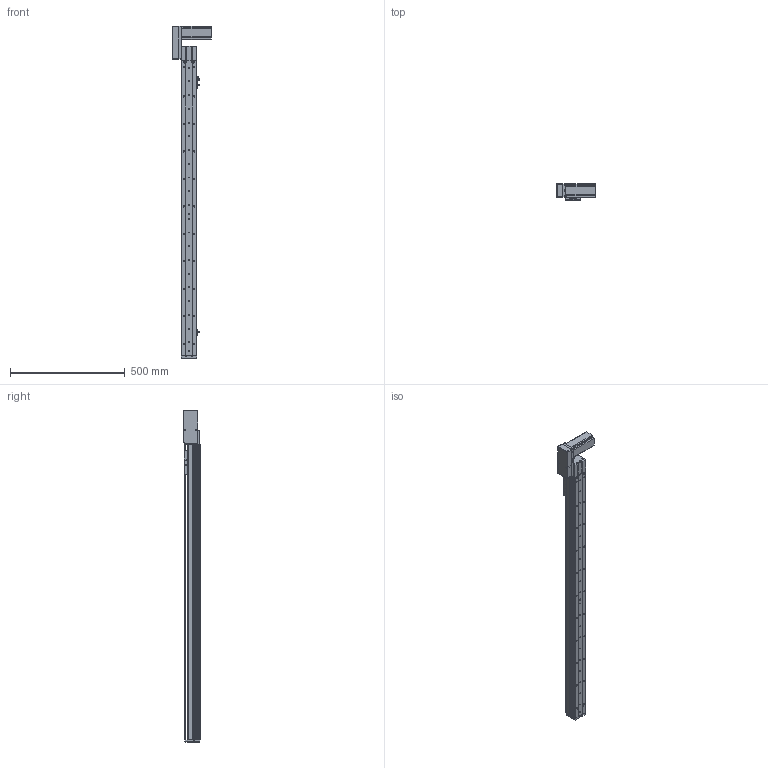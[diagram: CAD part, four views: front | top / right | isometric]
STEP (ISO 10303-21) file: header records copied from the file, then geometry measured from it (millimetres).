
FILE_DESCRIPTION (( 'STEP AP214' ), '1' );
FILE_NAME ('KSD68BS-S1100-MRB-CM.STEP', '2019-08-22T06:07:58', ( '微软用户' ), ( '微软中国' ), 'SwSTEP 2.0', 'SolidWorks 2014', '' );
FILE_SCHEMA (( 'AUTOMOTIVE_DESIGN' ));
Length unit declared in the file: millimetre
Products named in the file (11): U倰嫖萇EEㄜSX672; 台达ECMA－C20604AS伺服电机（400W); KSD68BS 1100俴最菁啣圉猾敕; KSD68BS-S1100-MRB-CM; 悵誘欶奻狟殏; 68宽马达安装板连板上折同步带; 68宽单导轨半封闭同步带主动轮座右; 68单导轨同步带半封闭端板; KSD68BS 1100俴最裔啣圉猾敕; 覜茼え68遵圉猾敕; KSD68BS半封闭同步带传动导轨座
Assembly tree (12 placements, depth 2):
  KSD68BS-S1100-MRB-CM
    KSD68BS 1100俴最菁啣圉猾敕
    台达ECMA－C20604AS伺服电机（400W)
    U倰嫖萇EEㄜSX672  x3
    KSD68BS半封闭同步带传动导轨座
    覜茼え68遵圉猾敕
    KSD68BS 1100俴最裔啣圉猾敕
    68单导轨同步带半封闭端板
    68宽单导轨半封闭同步带主动轮座右
    68宽马达安装板连板上折同步带
    悵誘欶奻狟殏
Bounding box: 167.2 x 70.5 x 1449.5 mm (x, y, z)
Volume: 2497047.6 mm3; surface area: 890733.3 mm2
Topology: 13 solids, 13 shells, 1440 faces, 4162 edges, 2708 vertices
Faces by surface type: cylinder 732, plane 625, cone 83
Entity records: 53993 total; most frequent: CARTESIAN_POINT 10478, ORIENTED_EDGE 7076, DIRECTION 6946, EDGE_CURVE 3538, AXIS2_PLACEMENT_3D 2496, VERTEX_POINT 2332, VECTOR 1954, LINE 1954
